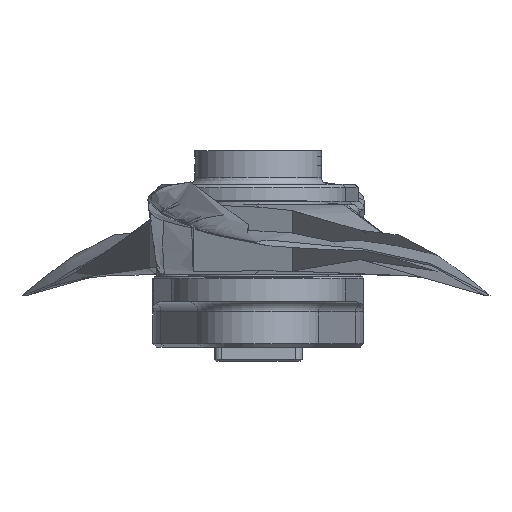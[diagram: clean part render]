
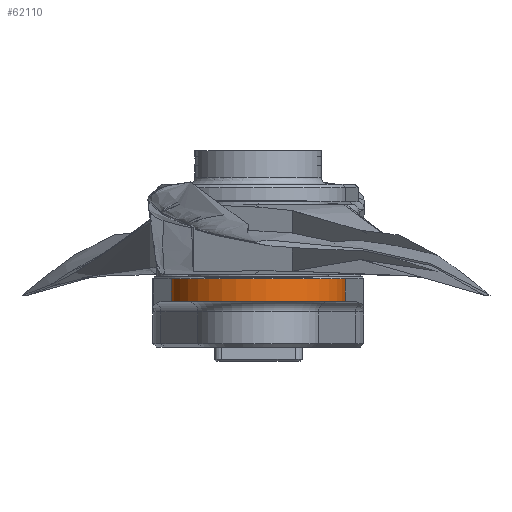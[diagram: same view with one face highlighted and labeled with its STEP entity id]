
A CAD part, left-side view. The second image highlights one B-rep face of the part: STEP entity #62110.
In plain terms, the highlighted cylindrical face has radius 25 mm (diameter 50 mm), a partial arc.
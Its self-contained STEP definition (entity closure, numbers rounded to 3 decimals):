
#914 = VECTOR ( 'NONE', #16787, 1000. ) ;
#1088 = ORIENTED_EDGE ( 'NONE', *, *, #35215, .F. ) ;
#5402 = DIRECTION ( 'NONE',  ( 0., 0., -1. ) ) ;
#6470 = CIRCLE ( 'NONE', #68295, 25. ) ;
#8602 = CARTESIAN_POINT ( 'NONE',  ( -50.602, 15.372, 172.65 ) ) ;
#9087 = CARTESIAN_POINT ( 'NONE',  ( -50.602, 15.372, 179.15 ) ) ;
#12336 = CARTESIAN_POINT ( 'NONE',  ( -50.602, 15.372, 176.15 ) ) ;
#16787 = DIRECTION ( 'NONE',  ( 0., 0., -1. ) ) ;
#20733 = ORIENTED_EDGE ( 'NONE', *, *, #25593, .F. ) ;
#22528 = AXIS2_PLACEMENT_3D ( 'NONE', #57750, #29178, #52646 ) ;
#23711 = LINE ( 'NONE', #51803, #914 ) ;
#23739 = EDGE_CURVE ( 'NONE', #50438, #33535, #30235, .T. ) ;
#25593 = EDGE_CURVE ( 'NONE', #50438, #40565, #23711, .T. ) ;
#26230 = CARTESIAN_POINT ( 'NONE',  ( -50.602, -34.174, 179.15 ) ) ;
#27554 = VECTOR ( 'NONE', #5402, 1000. ) ;
#29178 = DIRECTION ( 'NONE',  ( 0., 0., -1. ) ) ;
#30235 = CIRCLE ( 'NONE', #37609, 25. ) ;
#30418 = VERTEX_POINT ( 'NONE', #8602 ) ;
#31930 = DIRECTION ( 'NONE',  ( 0., 0., -1. ) ) ;
#33337 = EDGE_LOOP ( 'NONE', ( #50435, #1088, #20733, #55558 ) ) ;
#33535 = VERTEX_POINT ( 'NONE', #9087 ) ;
#35215 = EDGE_CURVE ( 'NONE', #40565, #30418, #6470, .T. ) ;
#37609 = AXIS2_PLACEMENT_3D ( 'NONE', #64901, #78711, #59355 ) ;
#40508 = LINE ( 'NONE', #12336, #27554 ) ;
#40565 = VERTEX_POINT ( 'NONE', #87899 ) ;
#50435 = ORIENTED_EDGE ( 'NONE', *, *, #54298, .T. ) ;
#50438 = VERTEX_POINT ( 'NONE', #26230 ) ;
#51803 = CARTESIAN_POINT ( 'NONE',  ( -50.602, -34.174, 175.9 ) ) ;
#52646 = DIRECTION ( 'NONE',  ( -0.134, -0.991, 0. ) ) ;
#54298 = EDGE_CURVE ( 'NONE', #33535, #30418, #40508, .T. ) ;
#55558 = ORIENTED_EDGE ( 'NONE', *, *, #23739, .T. ) ;
#56383 = CYLINDRICAL_SURFACE ( 'NONE', #22528, 25. ) ;
#57750 = CARTESIAN_POINT ( 'NONE',  ( -47.244, -9.401, 176.15 ) ) ;
#59355 = DIRECTION ( 'NONE',  ( 1., 0., 0. ) ) ;
#62110 = ADVANCED_FACE ( 'NONE', ( #77564 ), #56383, .T. ) ;
#64901 = CARTESIAN_POINT ( 'NONE',  ( -47.244, -9.401, 179.15 ) ) ;
#68295 = AXIS2_PLACEMENT_3D ( 'NONE', #89001, #31930, #75177 ) ;
#75177 = DIRECTION ( 'NONE',  ( 1., 0., 0. ) ) ;
#77564 = FACE_OUTER_BOUND ( 'NONE', #33337, .T. ) ;
#78711 = DIRECTION ( 'NONE',  ( 0., 0., -1. ) ) ;
#87899 = CARTESIAN_POINT ( 'NONE',  ( -50.602, -34.174, 172.65 ) ) ;
#89001 = CARTESIAN_POINT ( 'NONE',  ( -47.244, -9.401, 172.65 ) ) ;
